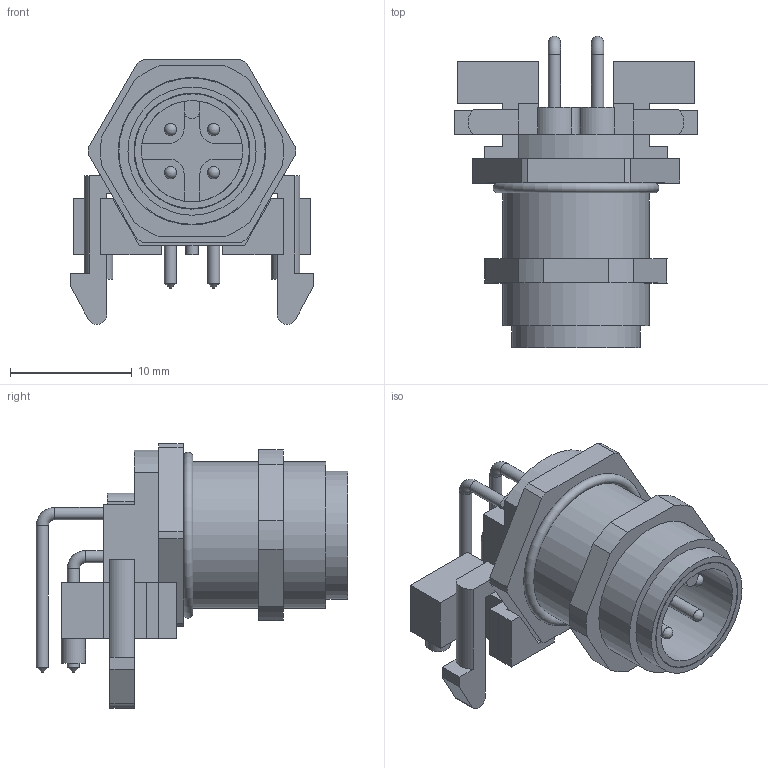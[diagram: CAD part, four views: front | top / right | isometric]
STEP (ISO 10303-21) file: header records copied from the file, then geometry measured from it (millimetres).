
FILE_DESCRIPTION((''),'2;1');
FILE_NAME('C:\TurckZip\WFSFDH_4.4.stp','2008-03-24T11:00:24',('IKOROL'),(''),'Autodesk Inventor 2008','Autodesk Inventor 2008','');
FILE_SCHEMA(('CONFIG_CONTROL_DESIGN'));
Length unit declared in the file: millimetre
Products named in the file (1): WFSFDH 4.4
Bounding box: 20 x 25.54 x 21.7 mm (x, y, z)
Volume: 2347.2 mm3; surface area: 3749.8 mm2
Topology: 2 solids, 2 shells, 170 faces, 456 edges, 297 vertices
Faces by surface type: plane 107, cylinder 50, torus 5, cone 4, sphere 4
Full cylindrical faces by diameter (mm): 1 x13, 1.3 x1, 2 x2, 8.3 x1, 9.4 x1, 9.5 x1, 10.5 x1, 12 x1, 12.1 x1
Entity records: 5099 total; most frequent: DIRECTION 850, CARTESIAN_POINT 841, ORIENTED_EDGE 790, EDGE_CURVE 395, AXIS2_PLACEMENT_3D 284, VECTOR 282, LINE 282, VERTEX_POINT 275
